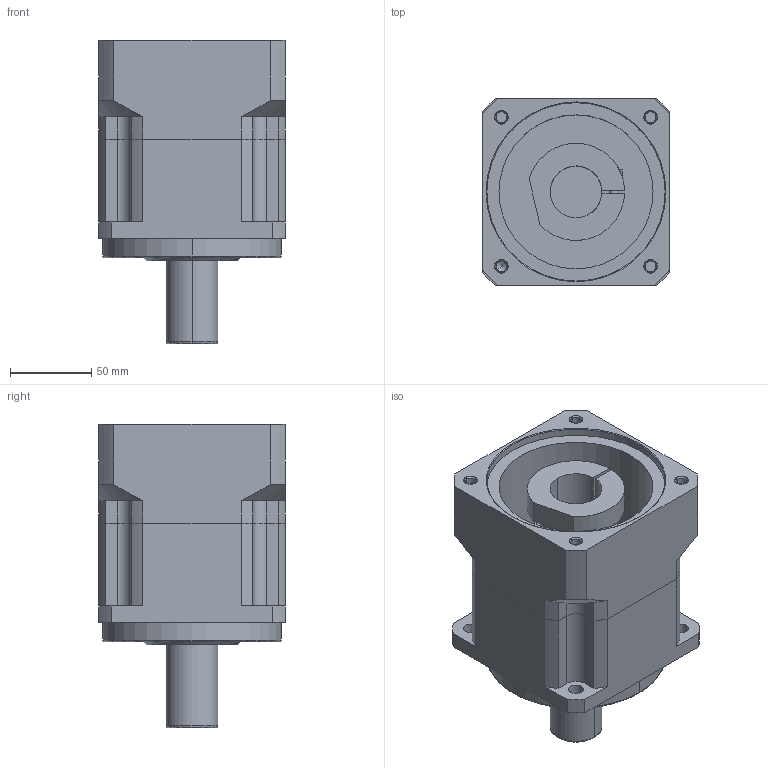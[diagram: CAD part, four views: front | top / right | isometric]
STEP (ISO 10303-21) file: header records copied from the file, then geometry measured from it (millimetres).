
FILE_DESCRIPTION((''),'2;1');
FILE_NAME('AB1151-P4040102_ASM','2005-07-20T',('jacky'),(''),'PRO/ENGINEER BY PARAMETRIC TECHNOLOGY CORPORATION, 2001280','PRO/ENGINEER BY PARAMETRIC TECHNOLOGY CORPORATION, 2001280','');
FILE_SCHEMA(('CONFIG_CONTROL_DESIGN'));
Length unit declared in the file: millimetre
Products named in the file (3): AB1151; P4040102; AB1151-P4040102_ASM
Assembly tree (2 placements, depth 2):
  AB1151-P4040102_ASM
    AB1151
    P4040102
Bounding box: 115 x 115 x 187 mm (x, y, z)
Volume: 1266611 mm3; surface area: 137253.8 mm2
Topology: 2 solids, 6 shells, 160 faces, 409 edges, 267 vertices
Faces by surface type: cylinder 75, plane 63, cone 16, torus 6
Entity records: 5054 total; most frequent: DIRECTION 923, CARTESIAN_POINT 897, ORIENTED_EDGE 798, EDGE_CURVE 407, AXIS2_PLACEMENT_3D 358, VERTEX_POINT 267, VECTOR 207, LINE 207
